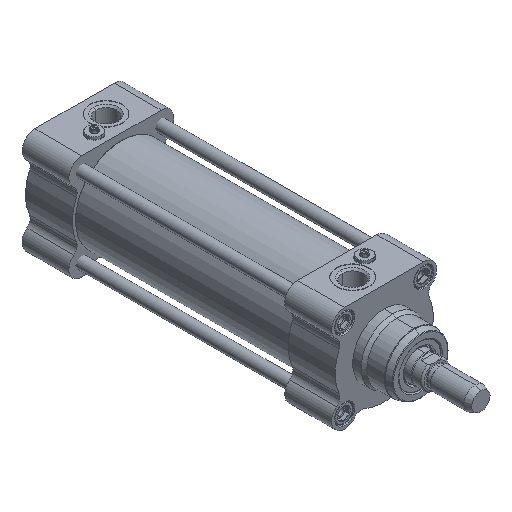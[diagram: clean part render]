
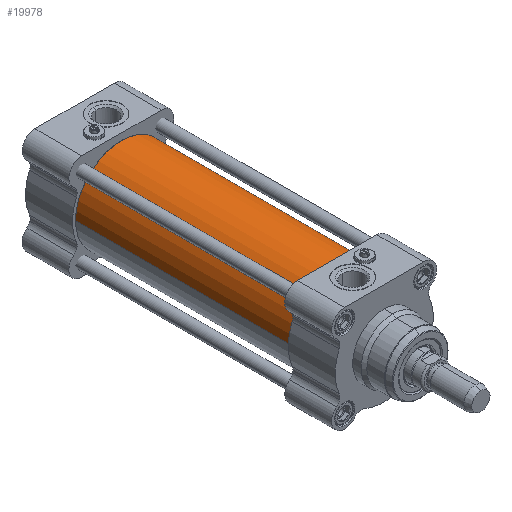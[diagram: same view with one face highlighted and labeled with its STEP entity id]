
A CAD part, isometric view. The second image highlights one B-rep face of the part: STEP entity #19978.
In plain terms, the highlighted cylindrical face has radius 33 mm (diameter 66 mm), a partial arc.
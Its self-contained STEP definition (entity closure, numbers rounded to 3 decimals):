
#302 = ORIENTED_EDGE ( 'NONE', *, *, #4887, .F. ) ;
#1053 = DIRECTION ( 'NONE',  ( 0., 1., 0. ) ) ;
#1548 = EDGE_CURVE ( 'NONE', #7485, #4766, #13339, .T. ) ;
#2216 = VECTOR ( 'NONE', #16759, 1000. ) ;
#2365 = CARTESIAN_POINT ( 'NONE',  ( -33., 0., 0. ) ) ;
#2455 = CARTESIAN_POINT ( 'NONE',  ( -33., 76.8, 0. ) ) ;
#4454 = AXIS2_PLACEMENT_3D ( 'NONE', #14297, #1053, #12459 ) ;
#4766 = VERTEX_POINT ( 'NONE', #6001 ) ;
#4875 = CIRCLE ( 'NONE', #9924, 33. ) ;
#4887 = EDGE_CURVE ( 'NONE', #12405, #4766, #19961, .T. ) ;
#4994 = DIRECTION ( 'NONE',  ( 0., 1., 0. ) ) ;
#5217 = CARTESIAN_POINT ( 'NONE',  ( 0., 76.8, 0. ) ) ;
#5579 = VECTOR ( 'NONE', #11719, 1000. ) ;
#6001 = CARTESIAN_POINT ( 'NONE',  ( 33., 76.8, 0. ) ) ;
#6860 = DIRECTION ( 'NONE',  ( 0., -1., 0. ) ) ;
#7159 = EDGE_LOOP ( 'NONE', ( #7224, #23167, #22228, #302 ) ) ;
#7224 = ORIENTED_EDGE ( 'NONE', *, *, #17495, .F. ) ;
#7485 = VERTEX_POINT ( 'NONE', #18797 ) ;
#8758 = DIRECTION ( 'NONE',  ( 1., 0., 0. ) ) ;
#9173 = CARTESIAN_POINT ( 'NONE',  ( -33., -76.8, 0. ) ) ;
#9472 = AXIS2_PLACEMENT_3D ( 'NONE', #5217, #4994, #8758 ) ;
#9574 = LINE ( 'NONE', #2365, #5579 ) ;
#9924 = AXIS2_PLACEMENT_3D ( 'NONE', #16586, #6860, #22076 ) ;
#10113 = EDGE_CURVE ( 'NONE', #7485, #21626, #4875, .T. ) ;
#11719 = DIRECTION ( 'NONE',  ( 0., 1., 0. ) ) ;
#12405 = VERTEX_POINT ( 'NONE', #2455 ) ;
#12459 = DIRECTION ( 'NONE',  ( 1., 0., 0. ) ) ;
#13339 = LINE ( 'NONE', #15283, #2216 ) ;
#13577 = FACE_OUTER_BOUND ( 'NONE', #7159, .T. ) ;
#14297 = CARTESIAN_POINT ( 'NONE',  ( 0., 0., 0. ) ) ;
#15283 = CARTESIAN_POINT ( 'NONE',  ( 33., 0., 0. ) ) ;
#16586 = CARTESIAN_POINT ( 'NONE',  ( 0., -76.8, 0. ) ) ;
#16759 = DIRECTION ( 'NONE',  ( 0., 1., 0. ) ) ;
#17495 = EDGE_CURVE ( 'NONE', #21626, #12405, #9574, .T. ) ;
#17839 = CYLINDRICAL_SURFACE ( 'NONE', #4454, 33. ) ;
#18797 = CARTESIAN_POINT ( 'NONE',  ( 33., -76.8, 0. ) ) ;
#19961 = CIRCLE ( 'NONE', #9472, 33. ) ;
#19978 = ADVANCED_FACE ( 'NONE', ( #13577 ), #17839, .T. ) ;
#21626 = VERTEX_POINT ( 'NONE', #9173 ) ;
#22076 = DIRECTION ( 'NONE',  ( 1., 0., 0. ) ) ;
#22228 = ORIENTED_EDGE ( 'NONE', *, *, #1548, .T. ) ;
#23167 = ORIENTED_EDGE ( 'NONE', *, *, #10113, .F. ) ;
